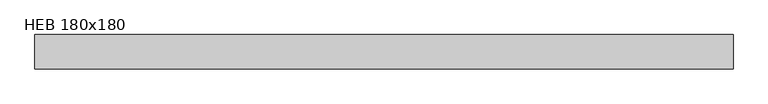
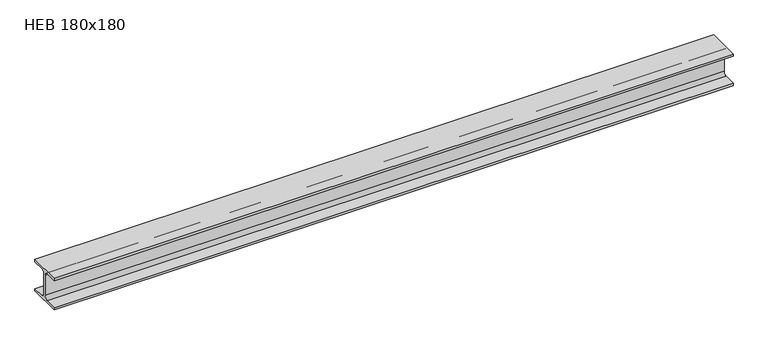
"""IFC4 building model written with IfcOpenShell, lengths in millimetres: beam geometry, M_HP-Bearing Pile : HEB 180x180."""

from ifc_helpers import new_model, si_unit, point, frame, frame_2d, origin, place, context, project, spatial, polyline, circle_curve, trimmed, segment, composite_curve, outline, extrude, source, transform, mapped, element, save


def heb_180x180_753583c2(model_context):
    return source(origin(), model_context, "Body", "SweptSolid", [
        extrude(outline(composite_curve([segment(polyline([(-90.0, -76.9), (-25.45, -76.9)]), True, "CONTINUOUS"), segment(trimmed(circle_curve(frame_2d((-25.45, -58.0)), 18.9), [point((-25.45, -76.9))], [point((-6.55, -58.0))], True, "CARTESIAN"), True, "CONTINUOUS"), segment(polyline([(-6.55, -58.0), (-6.55, 58.0)]), True, "CONTINUOUS"), segment(trimmed(circle_curve(frame_2d((-25.45, 58.0)), 18.9), [point((-6.55, 58.0))], [point((-25.45, 76.9))], True, "CARTESIAN"), True, "CONTINUOUS"), segment(polyline([(-25.45, 76.9), (-90.0, 76.9), (-90.0, 90.0), (90.0, 90.0), (90.0, 76.9), (25.45, 76.9)]), True, "CONTINUOUS"), segment(trimmed(circle_curve(frame_2d((25.45, 58.0)), 18.9), [point((25.45, 76.9))], [point((6.55, 58.0))], True, "CARTESIAN"), True, "CONTINUOUS"), segment(polyline([(6.55, 58.0), (6.55, -58.0)]), True, "CONTINUOUS"), segment(trimmed(circle_curve(frame_2d((25.45, -58.0)), 18.9), [point((6.55, -58.0))], [point((25.45, -76.9))], True, "CARTESIAN"), True, "CONTINUOUS"), segment(polyline([(25.45, -76.9), (90.0, -76.9), (90.0, -90.0), (-90.0, -90.0), (-90.0, -76.9)]), True, "CONTINUOUS")], self_intersect=False)), frame((-1801.0177134, 0.0, 0.0), z_axis=(1.0, 0.0, 0.0), x_axis=(0.0, 1.0, 0.0)), (0.0, 0.0, 1.0), 3659.0354341),
    ])


if __name__ == "__main__":
    model = new_model("IFC4")
    model_context = context("Model", 3, world=origin())
    ifc_project = project(units=[si_unit("LENGTHUNIT", "METRE", prefix="MILLI")], contexts=[model_context])
    site = spatial("IfcSite", under=ifc_project)
    building = spatial("IfcBuilding", under=site)
    placement = place(None, origin())
    heb_180x180_shape = heb_180x180_753583c2(model_context)
    element("IfcBeam", 1, ObjectType="M_HP-Bearing Pile : HEB 180x180", at=placement, inside=building, context=model_context, shape_type="MappedRepresentation", body=[
        mapped(heb_180x180_shape, transform((0.0, 0.0, 0.0), x_axis=(1.0, 0.0, 0.0), y_axis=(0.0, 1.0, 0.0), z_axis=(0.0, 0.0, 1.0))),
    ])
    save(model, "model.ifc")
